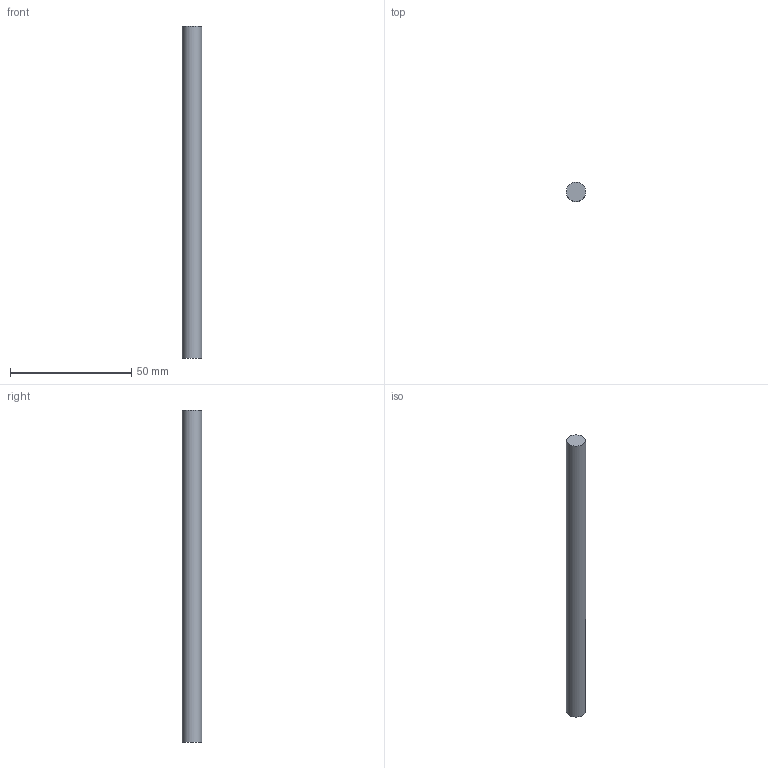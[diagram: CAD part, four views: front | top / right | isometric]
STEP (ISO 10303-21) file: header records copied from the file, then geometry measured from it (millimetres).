
FILE_DESCRIPTION(('Open CASCADE Model'),'2;1');
FILE_NAME('Open CASCADE Shape Model','2026-10-16T18:03:45',('Author'),( 'Open CASCADE'),'Open CASCADE STEP processor 7.8','Open CASCADE 7.8' ,'Unknown');
FILE_SCHEMA(('AUTOMOTIVE_DESIGN { 1 0 10303 214 1 1 1 1 }'));
Length unit declared in the file: millimetre
Products named in the file (1): Open CASCADE STEP translator 7.8 50
Bounding box: 8 x 8 x 137 mm (x, y, z)
Volume: 6886.4 mm3; surface area: 3543.7 mm2
Topology: 1 solids, 1 shells, 3 faces, 3 edges, 2 vertices
Faces by surface type: plane 2, cylinder 1
Full cylindrical faces by diameter (mm): 8 x1
Entity records: 108 total; most frequent: DIRECTION 19, CARTESIAN_POINT 15, AXIS2_PLACEMENT_3D 6, ORIENTED_EDGE 6, PCURVE 6, DEFINITIONAL_REPRESENTATION 6, LINE 5, VECTOR 5
